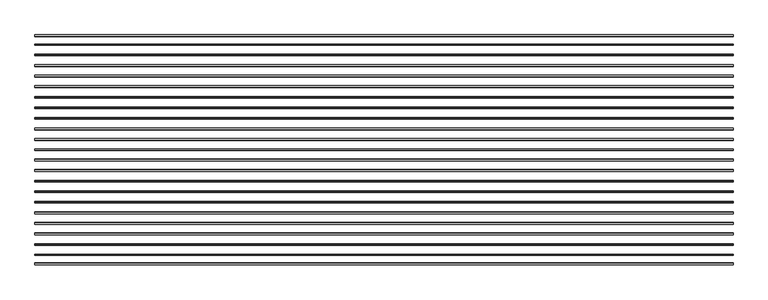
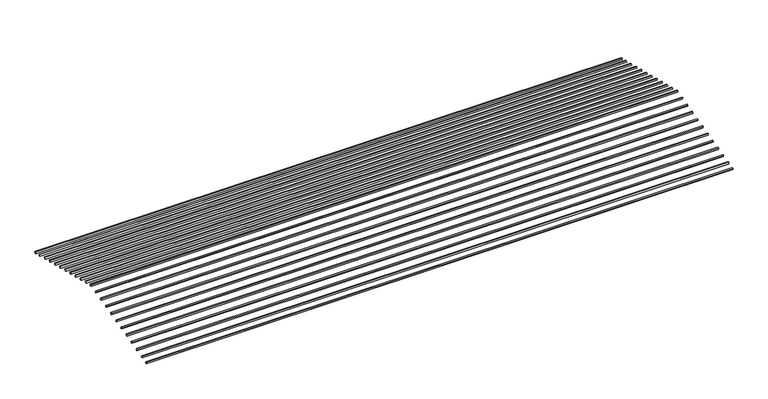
"""IFC4 building model written with IfcOpenShell, lengths in millimetres: proxy geometry, Modelos genéricos 230 : Modelos genéricos 230."""

from ifc_helpers import new_model, si_unit, frame, origin, place, context, project, spatial, polyline, outline, extrude, source, transform, mapped, element, save


def generic_models_95c86ca1(model_context):
    return source(origin(), model_context, "Body", "SweptSolid", [
        extrude(outline(polyline([(6049.4627818, 3534.546864), (6078.6238165, 3527.2762015), (6078.6238165, 3444.8271111), (6030.1090302, 3456.9232059), (6049.4627818, 3534.546864)])), frame((-13461.5527533, 0.0, 0.0), z_axis=(1.0, 0.0, 0.0), x_axis=(0.0, 1.0, 0.0)), (0.0, 0.0, 1.0), 27228.7383178),
        extrude(outline(polyline([(0.0, -50.0), (0.0, 0.0), (27228.7383178, 0.0), (27228.7383178, -50.0), (0.0, -50.0)])), frame((13767.1855645, 5617.1090302, 3559.8956711), z_axis=(0.0, 0.24192189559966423, 0.9702957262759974), x_axis=(-1.0, 0.0, 0.0)), (0.0, 0.0, 1.0), 80.0),
        extrude(outline(polyline([(0.0, -50.0), (0.0, 0.0), (27228.7383178, 0.0), (27228.7383178, -50.0), (0.0, -50.0)])), frame((13767.1855645, 5204.1090302, 3662.8681363), z_axis=(0.0, 0.24192189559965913, 0.9702957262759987), x_axis=(-1.0, 0.0, 0.0)), (0.0, 0.0, 1.0), 80.0),
        extrude(outline(polyline([(0.0, -50.0), (0.0, 0.0), (27228.7383178, 0.0), (27228.7383178, -50.0), (0.0, -50.0)])), frame((13767.1855645, 4791.1090302, 3765.8406014), z_axis=(0.0, 0.24192189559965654, 0.9702957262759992), x_axis=(-1.0, 0.0, 0.0)), (0.0, 0.0, 1.0), 80.0),
        extrude(outline(polyline([(0.0, -50.0), (0.0, 0.0), (27228.7383178, 0.0), (27228.7383178, -50.0), (0.0, -50.0)])), frame((13767.1855645, 4378.1090302, 3868.8130666), z_axis=(0.0, 0.24192189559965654, 0.9702957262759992), x_axis=(-1.0, 0.0, 0.0)), (0.0, 0.0, 1.0), 80.0),
        extrude(outline(polyline([(0.0, -50.0), (0.0, 0.0), (27228.7383178, 0.0), (27228.7383178, -50.0), (0.0, -50.0)])), frame((13767.1855645, 3965.1090302, 3971.7855318), z_axis=(0.0, 0.2419218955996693, 0.9702957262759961), x_axis=(-1.0, 0.0, 0.0)), (0.0, 0.0, 1.0), 80.0),
        extrude(outline(polyline([(0.0, -50.0), (0.0, 0.0), (27228.7383178, 0.0), (27228.7383178, -50.0), (0.0, -50.0)])), frame((13767.1855645, 3552.1090302, 4074.757997), z_axis=(0.0, 0.24192189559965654, 0.9702957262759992), x_axis=(-1.0, 0.0, 0.0)), (0.0, 0.0, 1.0), 80.0),
        extrude(outline(polyline([(0.0, -50.0), (0.0, 0.0), (27228.7383178, 0.0), (27228.7383178, -50.0), (0.0, -50.0)])), frame((13767.1855645, 3139.1090302, 4177.7304621), z_axis=(0.0, 0.24192189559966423, 0.9702957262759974), x_axis=(-1.0, 0.0, 0.0)), (0.0, 0.0, 1.0), 80.0),
        extrude(outline(polyline([(0.0, -50.0), (0.0, 0.0), (27228.7383178, 0.0), (27228.7383178, -50.0), (0.0, -50.0)])), frame((13767.1855645, 2726.1090302, 4280.7029273), z_axis=(0.0, 0.24192189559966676, 0.9702957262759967), x_axis=(-1.0, 0.0, 0.0)), (0.0, 0.0, 1.0), 80.0),
        extrude(outline(polyline([(0.0, -50.0), (0.0, 0.0), (27228.7383178, 0.0), (27228.7383178, -50.0), (0.0, -50.0)])), frame((13767.1855645, 2313.1090302, 4383.6753925), z_axis=(0.0, 0.24192189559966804, 0.9702957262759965), x_axis=(-1.0, 0.0, 0.0)), (0.0, 0.0, 1.0), 80.0),
        extrude(outline(polyline([(-2152.2151488, 3534.546864), (-2132.8613972, 3456.9232059), (-2181.3761835, 3444.8271111), (-2181.3761835, 3527.2762015), (-2152.2151488, 3534.546864)])), frame((-13461.5527533, 0.0, 0.0), z_axis=(1.0, 0.0, 0.0), x_axis=(0.0, 1.0, 0.0)), (0.0, 0.0, 1.0), 27228.7383178),
        extrude(outline(polyline([(0.0, -50.0), (0.0, 0.0), (27228.7383178, 0.0), (27228.7383178, -50.0), (0.0, -50.0)])), frame((13767.1855645, -1768.3761835, 3547.7995763), z_axis=(0.0, -0.24192189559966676, 0.9702957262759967), x_axis=(-1.0, 0.0, 0.0)), (0.0, 0.0, 1.0), 80.0),
        extrude(outline(polyline([(0.0, -50.0), (0.0, 0.0), (27228.7383178, 0.0), (27228.7383178, -50.0), (0.0, -50.0)])), frame((13767.1855645, -1355.3761835, 3650.7720415), z_axis=(0.0, -0.24192189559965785, 0.970295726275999), x_axis=(-1.0, 0.0, 0.0)), (0.0, 0.0, 1.0), 80.0),
        extrude(outline(polyline([(0.0, -50.0), (0.0, 0.0), (27228.7383178, 0.0), (27228.7383178, -50.0), (0.0, -50.0)])), frame((13767.1855645, -942.3761835, 3753.7445067), z_axis=(0.0, -0.24192189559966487, 0.9702957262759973), x_axis=(-1.0, 0.0, 0.0)), (0.0, 0.0, 1.0), 80.0),
        extrude(outline(polyline([(0.0, -50.0), (0.0, 0.0), (27228.7383178, 0.0), (27228.7383178, -50.0), (0.0, -50.0)])), frame((13767.1855645, -529.3761835, 3856.7169718), z_axis=(0.0, -0.24192189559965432, 0.9702957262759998), x_axis=(-1.0, 0.0, 0.0)), (0.0, 0.0, 1.0), 80.0),
        extrude(outline(polyline([(0.0, -50.0), (0.0, 0.0), (27228.7383178, 0.0), (27228.7383178, -50.0), (0.0, -50.0)])), frame((13767.1855645, -116.3761835, 3959.689437), z_axis=(0.0, -0.2419218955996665, 0.9702957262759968), x_axis=(-1.0, 0.0, 0.0)), (0.0, 0.0, 1.0), 80.0),
        extrude(outline(polyline([(0.0, -50.0), (0.0, 0.0), (27228.7383178, 0.0), (27228.7383178, -50.0), (0.0, -50.0)])), frame((13767.1855645, 296.6238165, 4062.6619022), z_axis=(0.0, -0.2419218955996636, 0.9702957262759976), x_axis=(-1.0, 0.0, 0.0)), (0.0, 0.0, 1.0), 80.0),
        extrude(outline(polyline([(0.0, -50.0), (0.0, 0.0), (27228.7383178, 0.0), (27228.7383178, -50.0), (0.0, -50.0)])), frame((13767.1855645, 709.6238165, 4165.6343673), z_axis=(0.0, -0.24192189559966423, 0.9702957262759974), x_axis=(-1.0, 0.0, 0.0)), (0.0, 0.0, 1.0), 80.0),
        extrude(outline(polyline([(0.0, -50.0), (0.0, 0.0), (27228.7383178, 0.0), (27228.7383178, -50.0), (0.0, -50.0)])), frame((13767.1855645, 1122.6238165, 4268.6068325), z_axis=(0.0, -0.2419218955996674, 0.9702957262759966), x_axis=(-1.0, 0.0, 0.0)), (0.0, 0.0, 1.0), 80.0),
        extrude(outline(polyline([(0.0, -50.0), (0.0, 0.0), (27228.7383178, 0.0), (27228.7383178, -50.0), (0.0, -50.0)])), frame((13767.1855645, 1535.6238165, 4371.5792977), z_axis=(0.0, -0.24192189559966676, 0.9702957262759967), x_axis=(-1.0, 0.0, 0.0)), (0.0, 0.0, 1.0), 80.0),
        extrude(outline(polyline([(1973.6238165, 4550.7676531), (1973.6238165, 4468.3185628), (1948.6238165, 4474.5517629), (1923.6238165, 4468.3185628), (1923.6238165, 4550.7676531), (1948.6238165, 4557.0008532), (1973.6238165, 4550.7676531)])), frame((-13461.5527533, 0.0, 0.0), z_axis=(1.0, 0.0, 0.0), x_axis=(0.0, 1.0, 0.0)), (0.0, 0.0, 1.0), 27228.7383178),
        extrude(outline(polyline([(0.0, -50.0), (0.0, 0.0), (27228.7383178, 0.0), (27228.7383178, -50.0), (0.0, -50.0)])), frame((13767.1855645, 6369.7125344, 3372.2505424), z_axis=(0.0, 0.24192189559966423, 0.9702957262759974), x_axis=(-1.0, 0.0, 0.0)), (0.0, 0.0, 1.0), 80.0),
        extrude(outline(polyline([(0.0, -50.0), (0.0, 0.0), (27228.7383178, 0.0), (27228.7383178, -50.0), (0.0, -50.0)])), frame((13767.1855645, -2520.9796877, 3360.1544477), z_axis=(0.0, -0.24192189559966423, 0.9702957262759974), x_axis=(-1.0, 0.0, 0.0)), (0.0, 0.0, 1.0), 80.0),
    ])


if __name__ == "__main__":
    model = new_model("IFC4")
    model_context = context("Model", 3, world=origin())
    ifc_project = project(units=[si_unit("LENGTHUNIT", "METRE", prefix="MILLI")], contexts=[model_context])
    site = spatial("IfcSite", under=ifc_project)
    building = spatial("IfcBuilding", under=site)
    placement = place(None, origin())
    generic_models_shape = generic_models_95c86ca1(model_context)
    element("IfcBuildingElementProxy", 1, Name="Modelos genéricos 230 : Modelos genéricos 230", ObjectType="Modelos genéricos 230 : Modelos genéricos 230", at=placement, inside=building, context=model_context, shape_type="MappedRepresentation", body=[
        mapped(generic_models_shape, transform((0.0, 0.0, 0.0), x_axis=(1.0, 0.0, 0.0), y_axis=(0.0, 1.0, 0.0), z_axis=(0.0, 0.0, 1.0))),
    ])
    save(model, "model.ifc")
